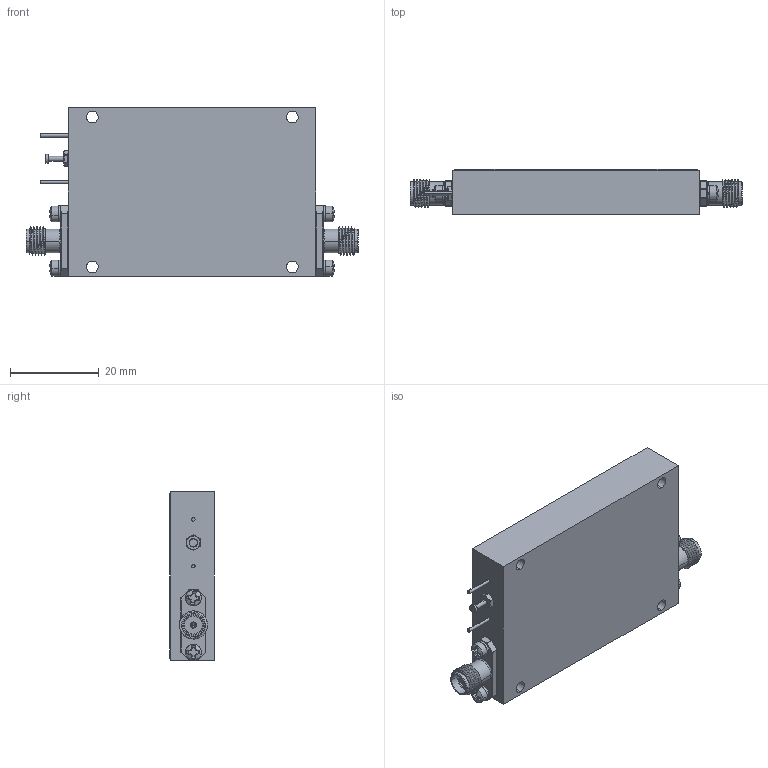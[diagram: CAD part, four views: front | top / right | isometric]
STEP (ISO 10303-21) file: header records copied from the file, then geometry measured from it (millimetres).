
FILE_DESCRIPTION (( 'STEP AP214' ), '1' );
FILE_NAME ('SDLVA-218-44-70MV.STEP', '2025-09-23T15:50:57', ( '' ), ( '' ), 'SwSTEP 2.0', 'SolidWorks 2024', '' );
FILE_SCHEMA (( 'AUTOMOTIVE_DESIGN' ));
Length unit declared in the file: inch
Products named in the file (1): SDLVA-218-44-70MV
Bounding box: 74.83 x 10.08 x 38 mm (x, y, z)
Volume: 21826.6 mm3; surface area: 11724.7 mm2
Topology: 22 solids, 22 shells, 797 faces, 3149 edges, 2577 vertices
Faces by surface type: plane 375, cylinder 195, torus 95, sphere 67, cone 45, bspline 20
Entity records: 49278 total; most frequent: CARTESIAN_POINT 16771, ORIENTED_EDGE 6226, DIRECTION 4628, EDGE_CURVE 3113, VERTEX_POINT 2577, LINE 1578, VECTOR 1578, AXIS2_PLACEMENT_3D 1525
